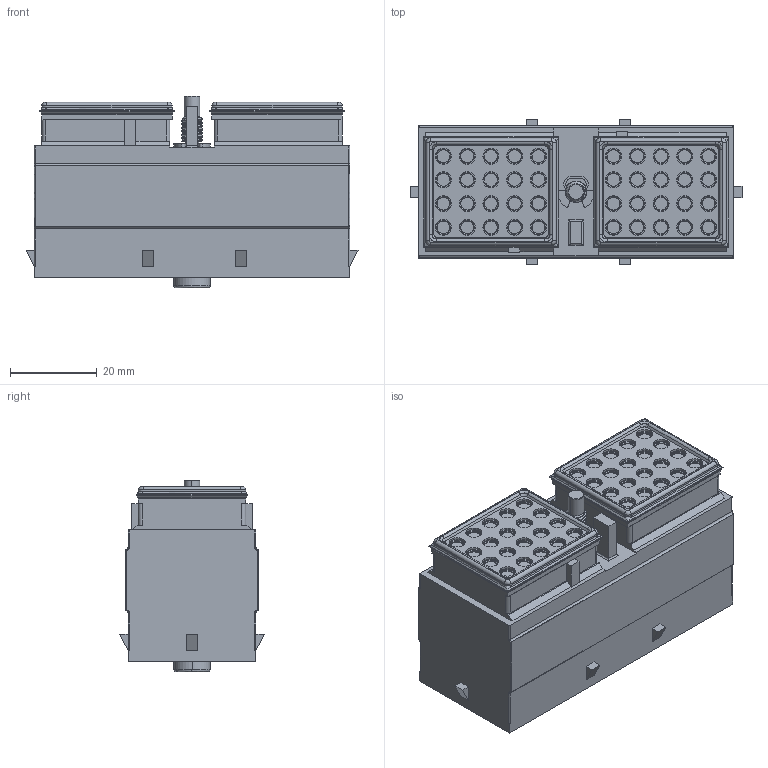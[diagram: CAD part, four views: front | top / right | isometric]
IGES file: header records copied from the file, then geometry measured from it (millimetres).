
Start section:  PTC IGES file: c-drc18-40sce-99-3d.igs
Global section: file name: c-drc18-40sce-99-3d.igs; native system: Pro/ENGINEER by Parametric Technology Corporation; preprocessor: 2011490; author: workeradm; organization: Unknown; units: millimetre
Bounding box: 76.66 x 33.32 x 44.32 mm (x, y, z)
Surface area: 15310.4 mm2 (no closed solid volume)
Topology: 0 solids, 0 shells, 1326 faces, 6014 edges, 6014 vertices
Faces by surface type: revolution 842, bspline 484
